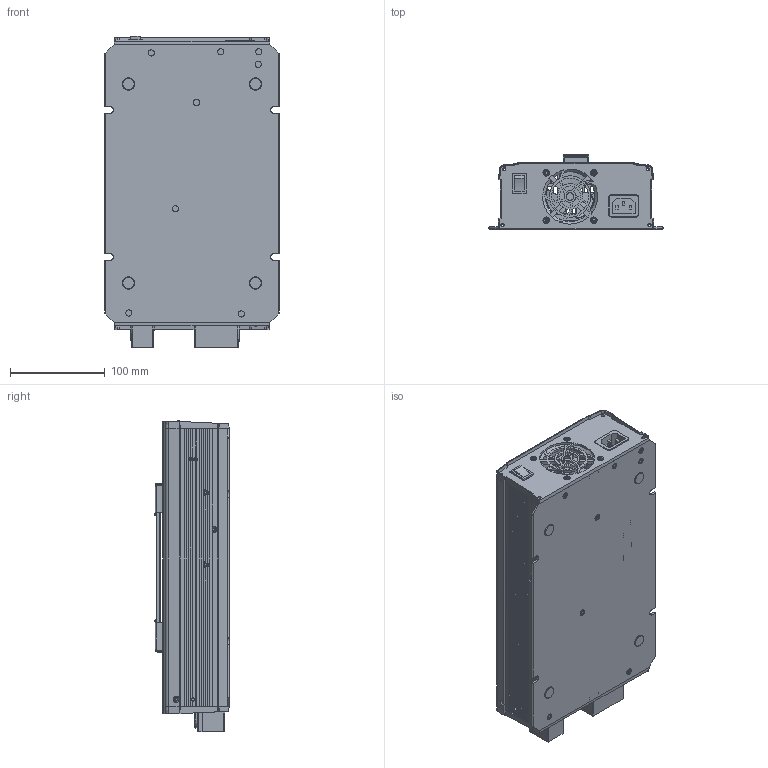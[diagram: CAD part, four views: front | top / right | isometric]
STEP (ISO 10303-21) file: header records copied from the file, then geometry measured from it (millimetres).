
FILE_DESCRIPTION(('Creo Elements/Direct Modeling STEP Export'),'2;1');
FILE_NAME('NPP-1700.stp','2021-12-28T11:54:03',(''),(''),'PTC Creo Elements/Direct Modeling STEP processor for AP214 (Solid Model)','PTC Creo Elements/Direct Modeling 19.0A 04-Oct-2014 (C) Parametric Technology GmbH','');
FILE_SCHEMA(('AUTOMOTIVE_DESIGN { 1 0 10303 214 1 1 1 1 }'));
Length unit declared in the file: millimetre
Products named in the file (100): p1; 1.4; 1.5; 1.3; 1.2; 1.1; 1.6; 2.2; 2.1; 2.5; 2.4; 2.3; 2.6; 1.7; 2.7; DH2L-14; FT-63EP.1; LED1.1; FT-63EP.1.1; NPPPCBB装配1.1; PANEL_3-拔模20210803; PANEL_2-拔模20210803.1; EMI隔离片.1; 组合件2; 侧板拔模后; FOOT_PAD_PRT_223_4.2; M3-6_5L; BOTTOM_CASE_PRT; BOTTOM_ASM; TOP_COVER_PRT; 174.PRT; GUWEI1.PRT; GUWEI1_1.PRT; _X2_628A624B_X0_.ASM; __.stp; CASE; PCBA; PCBE; PCBB; PCBC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
Assembly tree (117 placements, depth 5):
  NPP-1700
    装配
      TO220_ASM
        USER_LIBRARY-TO220-2_V-L_FUSI__.2  x4
      PCB-C_PRT_4_2
      7_1_PRT_2_PRT
      P1-60070_1_PRT_2_PRT
      CAP
      PCB-C_PRT
      FAN_4715KL40WB30_2_PRT_1_PRT_2
      HS_0817_ASM_2_ASM
        BD1_ASM_ASM_49_1_ASM_2_ASM
          USER_LIBRARY-KBJ-GSIB_PRT_49_2_  x2
      G板电容
        10.0.1.1.1
        10.0.1.1
        10.0.1
        10.0.1.1.1.1
        10.0
      MOS_TO247  x4
      PCB-B_LAYOUT
      PCB-A_BOARD_ASM
    1GG
      1GG2MHS-084
      1GG1HS-SZ902.11
      1GG1HS-SZ902.1
      1GG1HS-SZ902
      1GG4CU-SZ033A
      1GG4CU-SZ033
      1GG4CU-SZ033.1
      1GG4CU-SZ061
      1GG4CU-138
      1GG1HS-SZ157
      1GG4CU-SZ060
      1GG4CU-SZ059.1
      1GG4CU-SZ059
      1GG4CU-SZ061.1
      1GG1HS-SZ156
        P1_12_PRT
        PIN_1_2_1_1_12_PRT
      HS-SZ901A
      1GG4CU-SZ062
      1GG4CU-SZ063
    1HH
      PAD_0122_PRT
      PAD-5_PRT
      PAD-6_PRT
      PAD-2_PRT
      PAD-4_PRT
      PAD-3_PRT_4  x2
      PAD-1_PRT
      PAD-8_PRT
      PAD-11
      MYLAR-1_PRT
      MYLAR-2
      MYLAR-1
    PCB
      PCBG
      PCBD
      PCBF
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Bounding box: 184 x 79.65 x 327.84 mm (x, y, z)
Volume: 717569.8 mm3; surface area: 787163.7 mm2
Topology: 97 solids, 97 shells, 4609 faces, 12571 edges, 8120 vertices
Faces by surface type: plane 2602, cylinder 1154, cone 420, sphere 190, torus 124, bspline 66, extrusion 53
Entity records: 131102 total; most frequent: CARTESIAN_POINT 30301, ORIENTED_EDGE 21048, DIRECTION 19467, EDGE_CURVE 10524, VECTOR 7129, LINE 7102, VERTEX_POINT 6904, AXIS2_PLACEMENT_3D 6169
